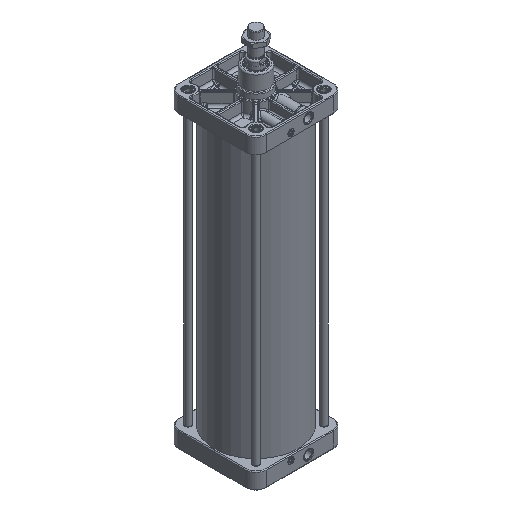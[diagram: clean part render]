
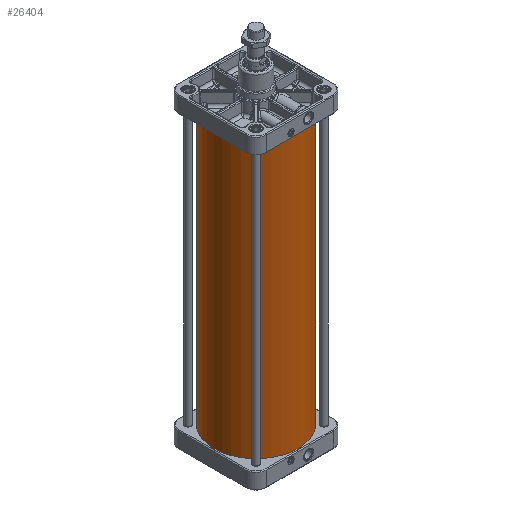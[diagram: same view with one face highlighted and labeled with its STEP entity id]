
A CAD part, isometric view. The second image highlights one B-rep face of the part: STEP entity #26404.
In plain terms, the highlighted cylindrical face has radius 168 mm (diameter 336 mm), a full revolution.
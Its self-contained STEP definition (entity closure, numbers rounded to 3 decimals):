
#2804=CIRCLE('',#29645,168.);
#2805=CIRCLE('',#29647,168.);
#3478=FACE_BOUND('',#7098,.T.);
#5147=FACE_OUTER_BOUND('',#7097,.T.);
#7097=EDGE_LOOP('',(#22547));
#7098=EDGE_LOOP('',(#22548));
#11979=VERTEX_POINT('',#64759);
#11980=VERTEX_POINT('',#64762);
#15511=EDGE_CURVE('',#11979,#11979,#2804,.T.);
#15512=EDGE_CURVE('',#11980,#11980,#2805,.T.);
#22547=ORIENTED_EDGE('',*,*,#15511,.T.);
#22548=ORIENTED_EDGE('',*,*,#15512,.T.);
#23070=CYLINDRICAL_SURFACE('',#29646,168.);
#26404=ADVANCED_FACE('',(#5147,#3478),#23070,.T.);
#29645=AXIS2_PLACEMENT_3D('',#64760,#36878,#36879);
#29646=AXIS2_PLACEMENT_3D('',#64761,#36880,#36881);
#29647=AXIS2_PLACEMENT_3D('',#64763,#36882,#36883);
#36878=DIRECTION('center_axis',(0.,0.,1.));
#36879=DIRECTION('ref_axis',(-1.,0.,0.));
#36880=DIRECTION('center_axis',(0.,0.,1.));
#36881=DIRECTION('ref_axis',(-1.,0.,0.));
#36882=DIRECTION('center_axis',(0.,0.,-1.));
#36883=DIRECTION('ref_axis',(-1.,0.,0.));
#64759=CARTESIAN_POINT('',(168.,0.,-545.));
#64760=CARTESIAN_POINT('Origin',(0.,0.,-545.));
#64761=CARTESIAN_POINT('Origin',(0.,0.,0.));
#64762=CARTESIAN_POINT('',(168.,0.,545.));
#64763=CARTESIAN_POINT('Origin',(0.,0.,545.));
